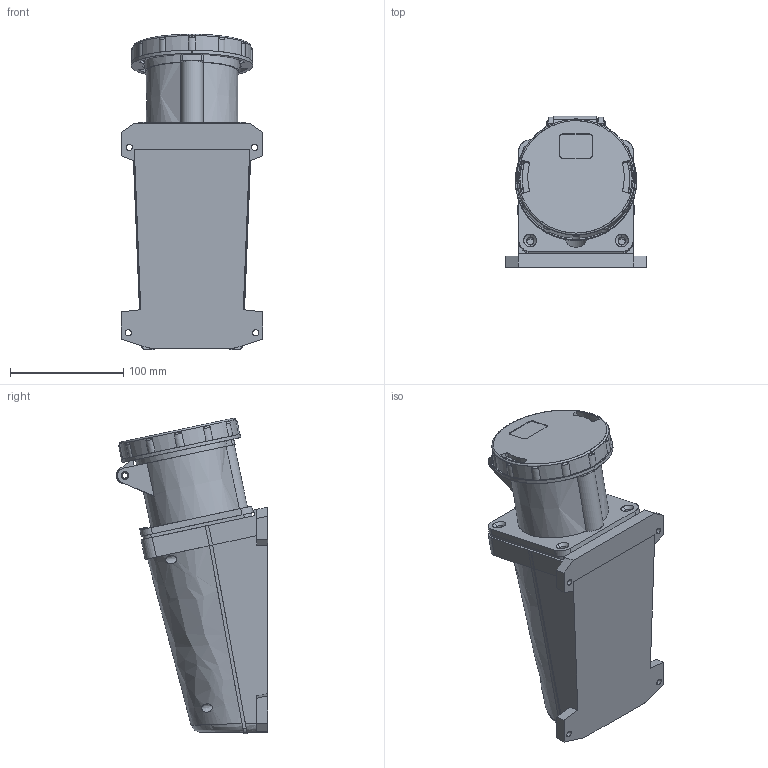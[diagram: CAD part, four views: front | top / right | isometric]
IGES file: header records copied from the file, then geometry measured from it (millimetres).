
Start section: SolidWorks IGES file using analytic representation for surfaces
Global section: file name: D:\X - Arquivos\PROEX\Empresas\P11 - METALTEX\01 - Produtos\IGES\5ª remessa\5ª etapa\TLS63632.IGS; native system: SolidWorks 2012; preprocessor: SolidWorks 2012; author: Usuario; date: 181024.170609; units: millimetre
Bounding box: 125 x 133.81 x 279.19 mm (x, y, z)
Surface area: 191255.2 mm2 (no closed solid volume)
Topology: 0 solids, 0 shells, 788 faces, 11030 edges, 11030 vertices
Faces by surface type: bspline 551, revolution 237
